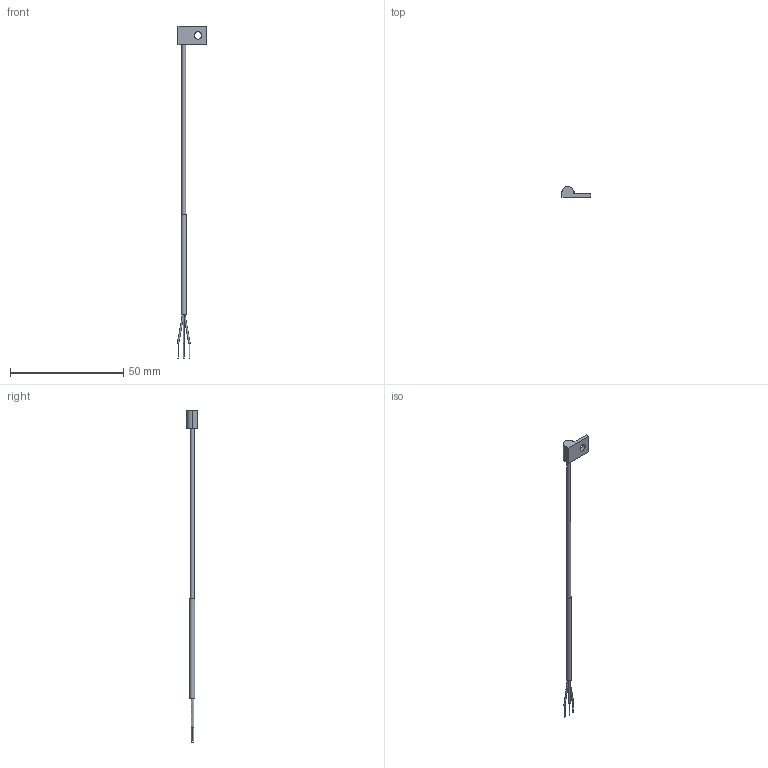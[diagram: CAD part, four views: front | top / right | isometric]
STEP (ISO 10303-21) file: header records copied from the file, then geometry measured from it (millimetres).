
FILE_DESCRIPTION(/* description */ (''),/* implementation_level */ '2;1');
FILE_NAME(/* name */ 'C:\Users\Justin\Documents\CAD\The Sensor Connection\Temperature Sensors\RTD\SMBD RTD\8950-0001-XXX, Rev -- , SMBD-RTD-PT100-XXX-3-N Assembly.stp',/* time_stamp */ '2022-01-07T14:33:31-05:00',/* author */ ('Justin'),/* organization */ (''),/* preprocessor_version */ 'ST-DEVELOPER v18.1',/* originating_system */ 'Autodesk Inventor 2022',/* authorisation */ '');
FILE_SCHEMA (('AUTOMOTIVE_DESIGN { 1 0 10303 214 3 1 1 }'));
Length unit declared in the file: inch
Products named in the file (5): SMBD RTD Assembly; SMBD; SMBD-RTD Cable; Potting Compound; SMBD-RTD LABEL
Assembly tree (4 placements, depth 2):
  SMBD RTD Assembly
    SMBD
    SMBD-RTD Cable
    Potting Compound
    SMBD-RTD LABEL
Bounding box: 13.02 x 4.81 x 146.81 mm (x, y, z)
Volume: 571.1 mm3; surface area: 3216.5 mm2
Topology: 10 solids, 10 shells, 44 faces, 71 edges, 48 vertices
Faces by surface type: plane 26, cylinder 16, bspline 2
Full cylindrical faces by diameter (mm): 0.432 x3, 0.635 x2, 1.368 x1, 1.524 x1, 1.714 x2, 2.222 x1, 3.277 x1, 3.556 x2
Entity records: 1375 total; most frequent: DIRECTION 211, CARTESIAN_POINT 209, ORIENTED_EDGE 142, AXIS2_PLACEMENT_3D 90, EDGE_CURVE 71, EDGE_LOOP 53, VERTEX_POINT 48, FACE_OUTER_BOUND 44
